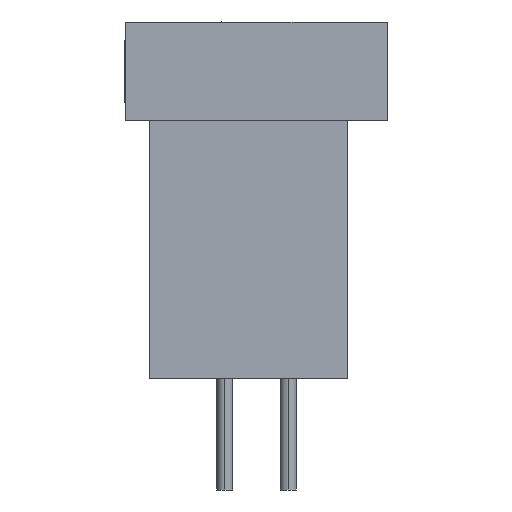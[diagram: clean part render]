
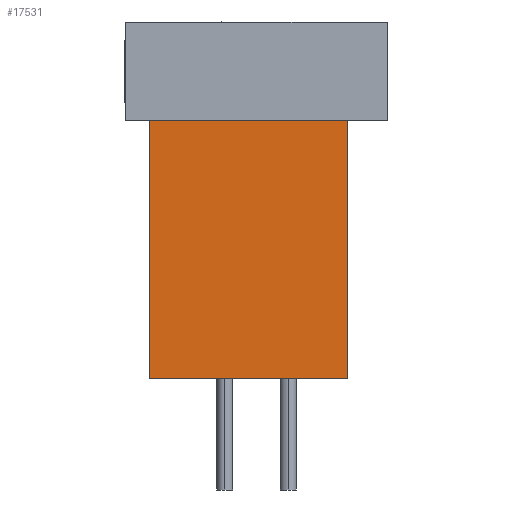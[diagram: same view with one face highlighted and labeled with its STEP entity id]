
A CAD part, left-side view. The second image highlights one B-rep face of the part: STEP entity #17531.
In plain terms, the highlighted planar face has unit normal (-1, 0, 0).
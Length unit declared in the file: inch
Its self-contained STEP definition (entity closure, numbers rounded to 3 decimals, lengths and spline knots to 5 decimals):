
#169 = CARTESIAN_POINT ( 'NONE',  ( -0.225, 0.0675, -0.225 ) ) ;
#1023 = CARTESIAN_POINT ( 'NONE',  ( -0.225, 0.0675, -0.062 ) ) ;
#2019 = VERTEX_POINT ( 'NONE', #1023 ) ;
#4189 = CARTESIAN_POINT ( 'NONE',  ( -0.225, 0.0675, -0.225 ) ) ;
#4436 = LINE ( 'NONE', #169, #17090 ) ;
#4686 = ORIENTED_EDGE ( 'NONE', *, *, #22962, .F. ) ;
#5661 = LINE ( 'NONE', #9870, #21161 ) ;
#6316 = FACE_OUTER_BOUND ( 'NONE', #11996, .T. ) ;
#6601 = DIRECTION ( 'NONE',  ( 0., -1., 0. ) ) ;
#6806 = ORIENTED_EDGE ( 'NONE', *, *, #26427, .T. ) ;
#7897 = LINE ( 'NONE', #21001, #26441 ) ;
#7928 = DIRECTION ( 'NONE',  ( 0., -1., 0. ) ) ;
#7998 = DIRECTION ( 'NONE',  ( 0., 0., 1. ) ) ;
#8432 = PLANE ( 'NONE',  #8936 ) ;
#8570 = DIRECTION ( 'NONE',  ( -1., 0., 0. ) ) ;
#8936 = AXIS2_PLACEMENT_3D ( 'NONE', #4189, #8570, #6601 ) ;
#9870 = CARTESIAN_POINT ( 'NONE',  ( -0.225, 0.0675, -0.225 ) ) ;
#11996 = EDGE_LOOP ( 'NONE', ( #4686, #17589, #21224, #6806 ) ) ;
#12926 = VERTEX_POINT ( 'NONE', #18992 ) ;
#13875 = DIRECTION ( 'NONE',  ( 0., -1., 0. ) ) ;
#16751 = CARTESIAN_POINT ( 'NONE',  ( -0.225, -0.0575, -0.225 ) ) ;
#16786 = EDGE_CURVE ( 'NONE', #27544, #2019, #4436, .T. ) ;
#17090 = VECTOR ( 'NONE', #19981, 39.37008 ) ;
#17531 = ADVANCED_FACE ( 'NONE', ( #6316 ), #8432, .T. ) ;
#17589 = ORIENTED_EDGE ( 'NONE', *, *, #16786, .F. ) ;
#18477 = VERTEX_POINT ( 'NONE', #16751 ) ;
#18992 = CARTESIAN_POINT ( 'NONE',  ( -0.225, -0.0575, -0.062 ) ) ;
#19981 = DIRECTION ( 'NONE',  ( 0., 0., 1. ) ) ;
#20180 = EDGE_CURVE ( 'NONE', #27544, #18477, #5661, .T. ) ;
#20970 = CARTESIAN_POINT ( 'NONE',  ( -0.225, -0.0575, -0.225 ) ) ;
#21001 = CARTESIAN_POINT ( 'NONE',  ( -0.225, 0.0675, -0.062 ) ) ;
#21161 = VECTOR ( 'NONE', #7928, 39.37008 ) ;
#21224 = ORIENTED_EDGE ( 'NONE', *, *, #20180, .T. ) ;
#22962 = EDGE_CURVE ( 'NONE', #2019, #12926, #7897, .T. ) ;
#24820 = LINE ( 'NONE', #20970, #27764 ) ;
#26427 = EDGE_CURVE ( 'NONE', #18477, #12926, #24820, .T. ) ;
#26441 = VECTOR ( 'NONE', #13875, 39.37008 ) ;
#27533 = CARTESIAN_POINT ( 'NONE',  ( -0.225, 0.0675, -0.225 ) ) ;
#27544 = VERTEX_POINT ( 'NONE', #27533 ) ;
#27764 = VECTOR ( 'NONE', #7998, 39.37008 ) ;
